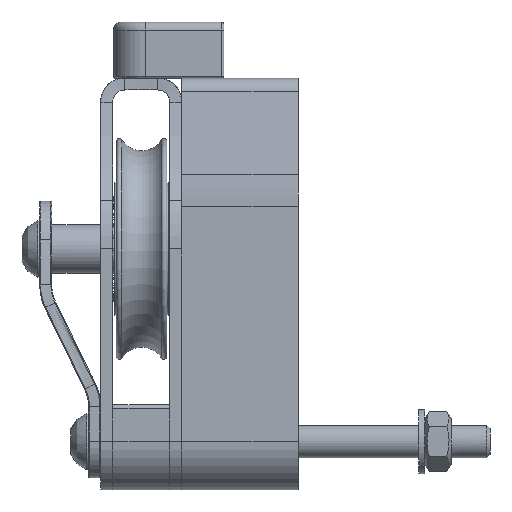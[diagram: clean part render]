
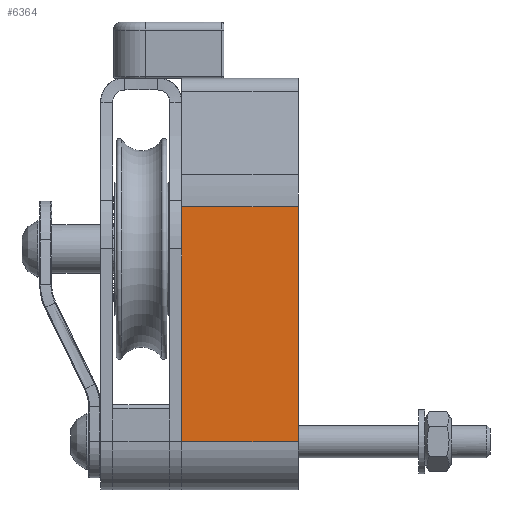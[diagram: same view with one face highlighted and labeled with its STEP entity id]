
A CAD part, left-side view. The second image highlights one B-rep face of the part: STEP entity #6364.
In plain terms, the highlighted planar face has unit normal (-1, 0, 0).
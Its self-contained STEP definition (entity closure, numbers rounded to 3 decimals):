
#498=LINE('',#12731,#802);
#513=LINE('',#12776,#817);
#626=LINE('',#13425,#930);
#627=LINE('',#13429,#931);
#628=LINE('',#13430,#932);
#802=VECTOR('',#7798,10.);
#817=VECTOR('',#7849,10.);
#930=VECTOR('',#8274,10.);
#931=VECTOR('',#8279,10.);
#932=VECTOR('',#8280,10.);
#1099=PLANE('',#6947);
#1344=FACE_OUTER_BOUND('',#1795,.T.);
#1795=EDGE_LOOP('',(#5217,#5218,#5219,#5220,#5221));
#2918=VERTEX_POINT('',#12728);
#2919=VERTEX_POINT('',#12730);
#2931=VERTEX_POINT('',#12775);
#3053=VERTEX_POINT('',#13424);
#3054=VERTEX_POINT('',#13428);
#3619=EDGE_CURVE('',#2919,#2918,#498,.T.);
#3642=EDGE_CURVE('',#2931,#2919,#513,.T.);
#3847=EDGE_CURVE('',#3053,#2931,#626,.T.);
#3849=EDGE_CURVE('',#3054,#2918,#627,.T.);
#3850=EDGE_CURVE('',#3053,#3054,#628,.T.);
#5217=ORIENTED_EDGE('',*,*,#3642,.T.);
#5218=ORIENTED_EDGE('',*,*,#3619,.T.);
#5219=ORIENTED_EDGE('',*,*,#3849,.F.);
#5220=ORIENTED_EDGE('',*,*,#3850,.F.);
#5221=ORIENTED_EDGE('',*,*,#3847,.T.);
#6364=ADVANCED_FACE('',(#1344),#1099,.T.);
#6947=AXIS2_PLACEMENT_3D('',#13427,#8277,#8278);
#7798=DIRECTION('',(0.,0.,-1.));
#7849=DIRECTION('',(0.,0.,-1.));
#8274=DIRECTION('',(0.,1.,0.));
#8277=DIRECTION('center_axis',(-1.,0.,0.));
#8278=DIRECTION('ref_axis',(0.,-1.,0.));
#8279=DIRECTION('',(0.,1.,0.));
#8280=DIRECTION('',(0.,0.,-1.));
#12728=CARTESIAN_POINT('',(-24.,29.,-48.));
#12730=CARTESIAN_POINT('',(-24.,29.,0.));
#12731=CARTESIAN_POINT('',(-24.,29.,10.495));
#12775=CARTESIAN_POINT('',(-24.,29.,10.495));
#12776=CARTESIAN_POINT('',(-24.,29.,10.495));
#13424=CARTESIAN_POINT('',(-24.,0.,10.495));
#13425=CARTESIAN_POINT('',(-24.,0.,10.495));
#13427=CARTESIAN_POINT('Origin',(-24.,0.,10.495));
#13428=CARTESIAN_POINT('',(-24.,0.,-48.));
#13429=CARTESIAN_POINT('',(-24.,0.,-48.));
#13430=CARTESIAN_POINT('',(-24.,0.,10.495));
